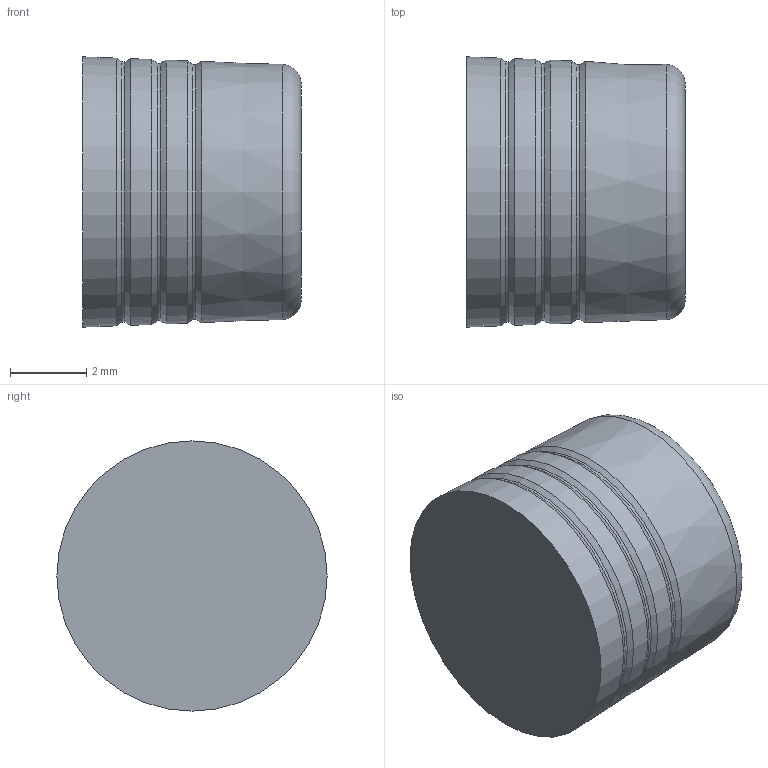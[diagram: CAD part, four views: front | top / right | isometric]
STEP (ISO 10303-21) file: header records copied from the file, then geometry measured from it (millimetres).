
FILE_DESCRIPTION(/* description */ ('LEE BETAPLUG, 7mm, SHORT, INDENT'),/* implementation_level */ '2;1');
FILE_NAME(/* name */ '\\ABSOLUTE\SmWork\Vernon\PLBA0702610S.stp',/* time_stamp */ '2021-03-23T15:10:50-04:00',/* author */ ('VernonJ'),/* organization */ (''),/* preprocessor_version */ 'ST-DEVELOPER v18',/* originating_system */ 'Autodesk Inventor 2020',/* authorisation */ '');
FILE_SCHEMA (('AUTOMOTIVE_DESIGN { 1 0 10303 214 3 1 1 }'));
Length unit declared in the file: millimetre
Products named in the file (1): PLBA0702610S
Bounding box: 5.71 x 7.07 x 7.07 mm (x, y, z)
Volume: 208.4 mm3; surface area: 195.7 mm2
Topology: 1 solids, 1 shells, 16 faces, 51 edges, 37 vertices
Faces by surface type: cone 10, torus 4, plane 2
Entity records: 649 total; most frequent: DIRECTION 126, CARTESIAN_POINT 105, ORIENTED_EDGE 102, AXIS2_PLACEMENT_3D 58, EDGE_CURVE 51, CIRCLE 41, VERTEX_POINT 37, FACE_OUTER_BOUND 16
